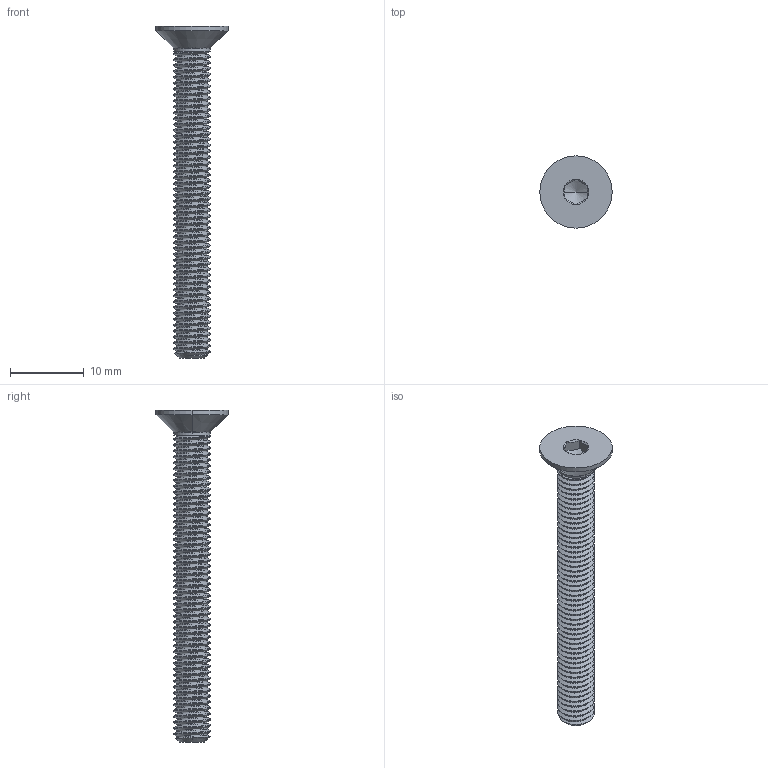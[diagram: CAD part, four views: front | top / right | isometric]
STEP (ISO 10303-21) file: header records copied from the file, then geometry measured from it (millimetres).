
FILE_DESCRIPTION (( 'STEP AP203' ), '1' );
FILE_NAME ('M5x45_DIN7991.STEP', '2025-11-14T09:40:09', ( '' ), ( '' ), 'SwSTEP 2.0', 'SolidWorks 2022', '' );
FILE_SCHEMA (( 'CONFIG_CONTROL_DESIGN' ));
Length unit declared in the file: millimetre
Products named in the file (1): M5x45_DIN7991
Bounding box: 9.8 x 9.8 x 45 mm (x, y, z)
Volume: 813.9 mm3; surface area: 1200.9 mm2
Topology: 2 solids, 2 shells, 135 faces, 387 edges, 255 vertices
Faces by surface type: cylinder 107, cone 13, plane 10, bspline 3, torus 2
Entity records: 10897 total; most frequent: CARTESIAN_POINT 7958, ORIENTED_EDGE 770, DIRECTION 443, EDGE_CURVE 385, VERTEX_POINT 255, AXIS2_PLACEMENT_3D 156, EDGE_LOOP 136, ADVANCED_FACE 135
